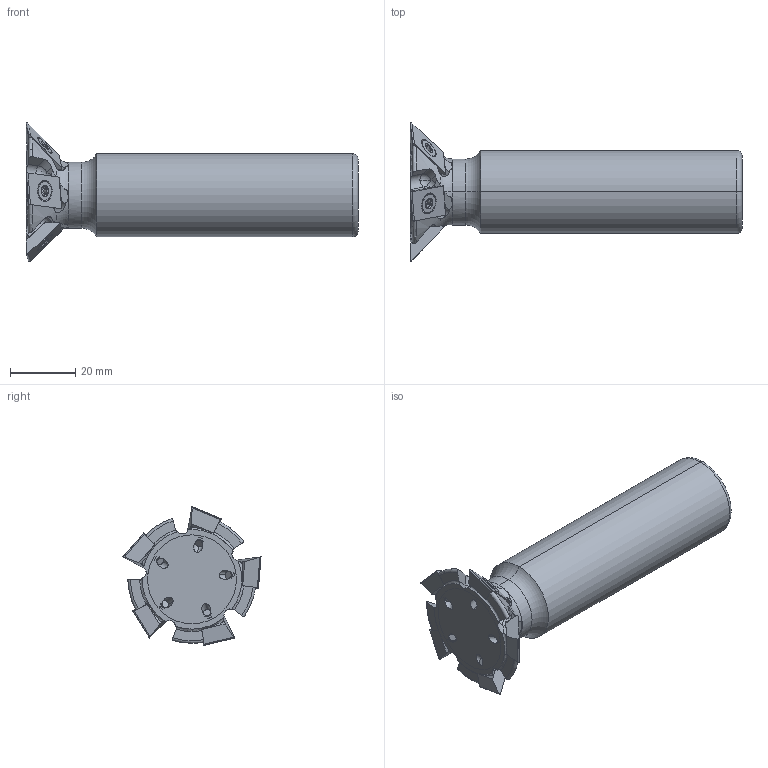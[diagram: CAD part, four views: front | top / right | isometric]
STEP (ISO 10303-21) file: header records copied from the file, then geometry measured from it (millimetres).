
FILE_DESCRIPTION (( 'STEP AP214' ), '1' );
FILE_NAME ('DC1750-I.STEP', '2020-10-29T16:38:34', ( '' ), ( '' ), 'SwSTEP 2.0', 'SolidWorks 2018', '' );
FILE_SCHEMA (( 'AUTOMOTIVE_DESIGN' ));
Length unit declared in the file: millimetre
Products named in the file (4): DC1750-I; DC1750-S_WITH THREADS ; DC1750-B; DC1750-45_FINISHED PART
Assembly tree (11 placements, depth 2):
  DC1750-I
    DC1750-45_FINISHED PART
    DC1750-B  x5
    DC1750-S_WITH THREADS   x5
Bounding box: 101.6 x 42.27 x 42.42 mm (x, y, z)
Volume: 51277.6 mm3; surface area: 13007.6 mm2
Topology: 11 solids, 11 shells, 587 faces, 1526 edges, 918 vertices
Faces by surface type: cylinder 255, cone 164, plane 108, torus 41, bspline 10, sphere 9
Entity records: 9577 total; most frequent: CARTESIAN_POINT 3285, ORIENTED_EDGE 1308, DIRECTION 1120, EDGE_CURVE 654, AXIS2_PLACEMENT_3D 441, VERTEX_POINT 416, EDGE_LOOP 262, FACE_OUTER_BOUND 247
